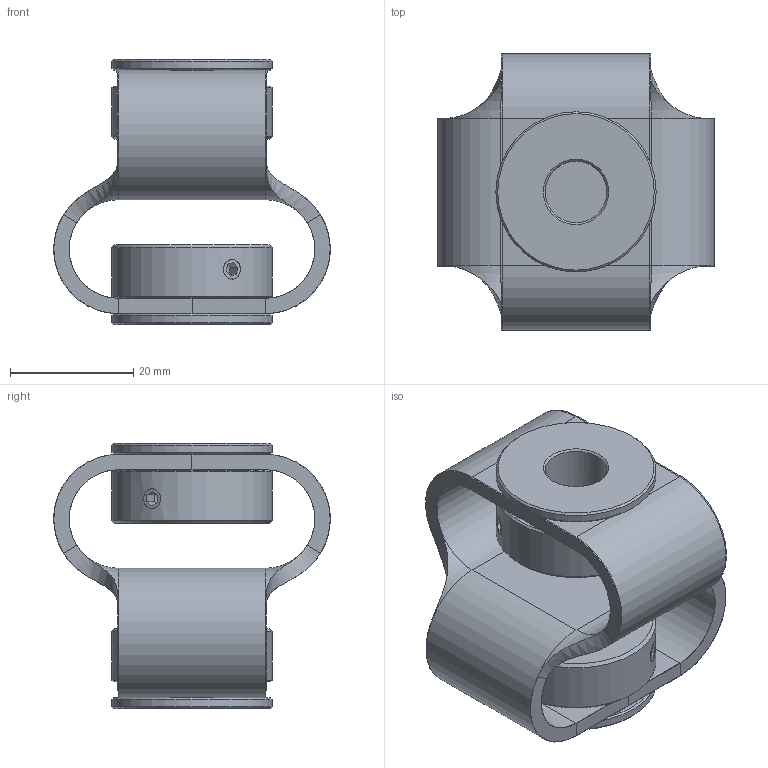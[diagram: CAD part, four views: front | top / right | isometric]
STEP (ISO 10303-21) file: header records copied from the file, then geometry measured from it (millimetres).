
FILE_DESCRIPTION(/* description */ ('Stern '),/* implementation_level */ '2;1');
FILE_NAME(/* name */ 'Z:\ABP-Antriebstechnik\Entwicklung-3D\Paguflex\DKPSF\DKPSF4848 10 10.stp',/* time_stamp */ '2024-03-11T14:35:38+01:00',/* author */ ('christian.fehrenbach'),/* organization */ (''),/* preprocessor_version */ 'ST-DEVELOPER v16.1',/* originating_system */ 'Autodesk Inventor 2016',/* authorisation */ '');
FILE_SCHEMA (('AUTOMOTIVE_DESIGN { 1 0 10303 214 3 1 1 }'));
Length unit declared in the file: millimetre
Products named in the file (4): Stern 4848 gebogen; Schraubnabe 2513 10; M4-6; DKPSF4848 10 10
Assembly tree (7 placements, depth 2):
  DKPSF4848 10 10
    Stern 4848 gebogen
    Schraubnabe 2513 10  x2
    M4-6  x4
Bounding box: 44.87 x 44.87 x 43.1 mm (x, y, z)
Volume: 20445.7 mm3; surface area: 15652.9 mm2
Topology: 7 solids, 11 shells, 174 faces, 368 edges, 206 vertices
Faces by surface type: plane 84, cylinder 44, cone 32, torus 10, bspline 4
Full cylindrical faces by diameter (mm): 3.242 x4, 4 x4, 10 x2, 18 x2, 26 x4
Entity records: 3091 total; most frequent: CARTESIAN_POINT 801, DIRECTION 492, ORIENTED_EDGE 420, AXIS2_PLACEMENT_3D 199, EDGE_CURVE 198, EDGE_LOOP 128, VERTEX_POINT 118, FACE_OUTER_BOUND 102
